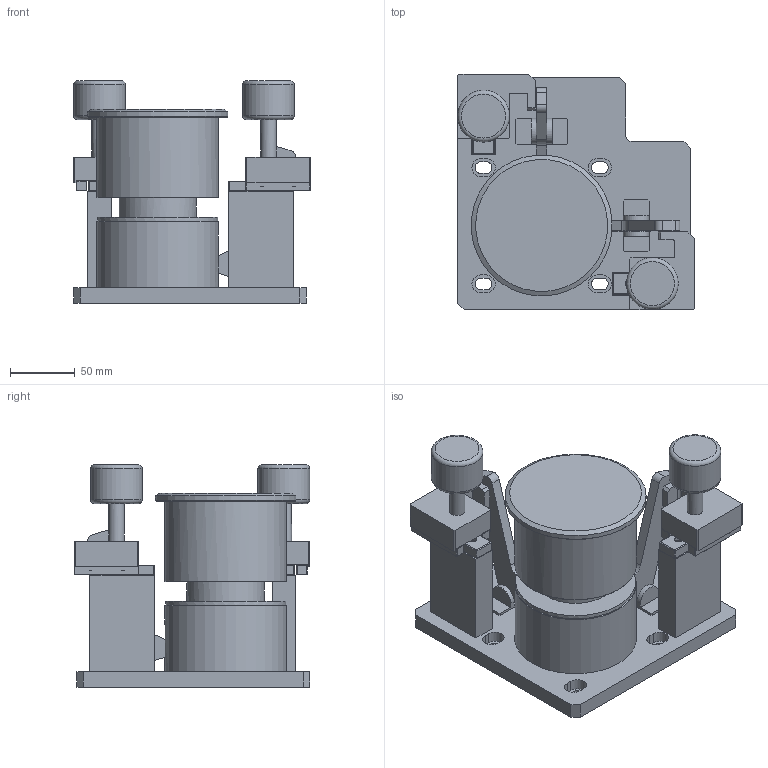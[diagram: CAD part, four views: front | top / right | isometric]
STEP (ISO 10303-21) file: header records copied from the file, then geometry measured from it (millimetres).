
FILE_DESCRIPTION(/* description */ (''),/* implementation_level */ '2;1');
FILE_NAME(/* name */ 'A:\업무자료\03. 개발\홍보자료제작\홈페이지(BKCI)\20181008 이전이력\첨부자료\STEP 파일\EFAU-15\EF2A\EF2A-15-0-SUS-S UP.stp',/* time_stamp */ '2018-11-30T13:36:17+09:00',/* author */ ('idt-l'),/* organization */ (''),/* preprocessor_version */ 'ST-DEVELOPER v16.13',/* originating_system */ 'Autodesk Inventor 2018',/* authorisation */ '');
FILE_SCHEMA (('AUTOMOTIVE_DESIGN { 1 0 10303 214 3 1 1 }'));
Length unit declared in the file: inch
Products named in the file (1): EF2A-15-0-SUS-S UP
Bounding box: 183.06 x 182.06 x 172 mm (x, y, z)
Volume: 1630232.8 mm3; surface area: 197271.3 mm2
Topology: 3 solids, 5 shells, 389 faces, 889 edges, 538 vertices
Faces by surface type: plane 308, cylinder 71, cone 6, torus 4
Full cylindrical faces by diameter (mm): 3.242 x12, 4.134 x2, 5 x2, 6 x12, 12 x2, 40 x2, 60 x1, 93 x1, 94 x2, 94.2 x1, 109 x1
Entity records: 10807 total; most frequent: DIRECTION 1761, CARTESIAN_POINT 1753, ORIENTED_EDGE 1656, EDGE_CURVE 828, LINE 671, VECTOR 671, AXIS2_PLACEMENT_3D 545, VERTEX_POINT 525
